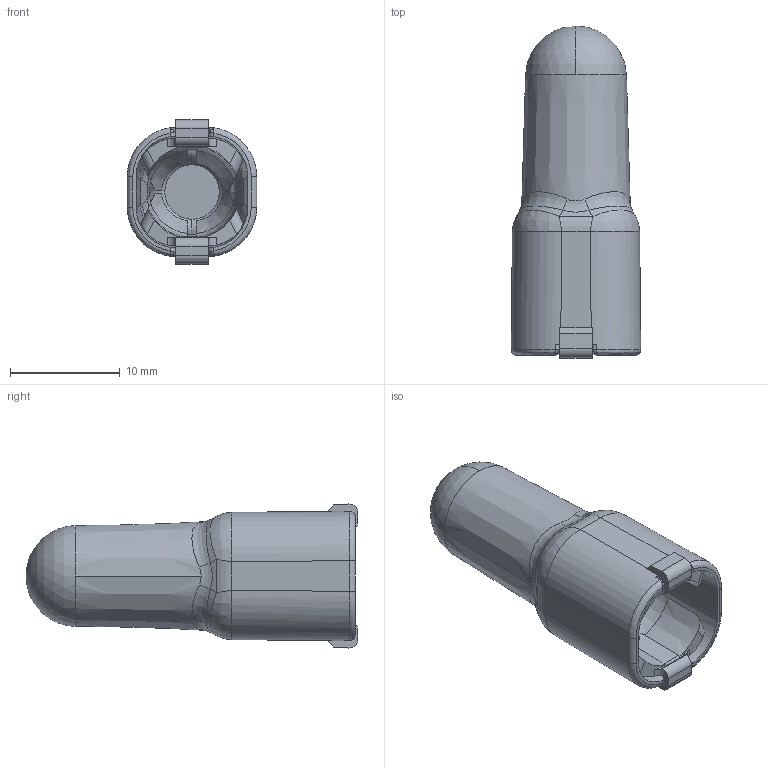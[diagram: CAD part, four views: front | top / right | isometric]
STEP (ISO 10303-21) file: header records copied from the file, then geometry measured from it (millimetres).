
FILE_DESCRIPTION(('Creo Elements/Direct Modeling STEP Export'),'2;1');
FILE_NAME('H11-0026-CL901_OP-1.stp','2013-09-19T14:14:24',(''),(''),'Creo Elements/Direct Modeling STEP processor for AP214 (Solid Model)','Creo Elements/Direct Modeling 18.1B 29-Sep-2012 (C) Parametric Technology GmbH','');
FILE_SCHEMA(('AUTOMOTIVE_DESIGN { 1 0 10303 214 1 1 1 1 }'));
Length unit declared in the file: millimetre
Products named in the file (2): OP-1
Assembly tree (1 placements, depth 2):
  OP-1
    OP-1
Bounding box: 11.79 x 30.25 x 13.13 mm (x, y, z)
Volume: 1158.9 mm3; surface area: 2288.9 mm2
Topology: 1 solids, 1 shells, 217 faces, 600 edges, 371 vertices
Faces by surface type: plane 71, cylinder 62, bspline 48, cone 24, torus 10, sphere 2
Entity records: 11376 total; most frequent: CARTESIAN_POINT 6435, ORIENTED_EDGE 1196, DIRECTION 752, EDGE_CURVE 598, VERTEX_POINT 371, AXIS2_PLACEMENT_3D 277, B_SPLINE_CURVE_WITH_KNOTS 232, EDGE_LOOP 221
